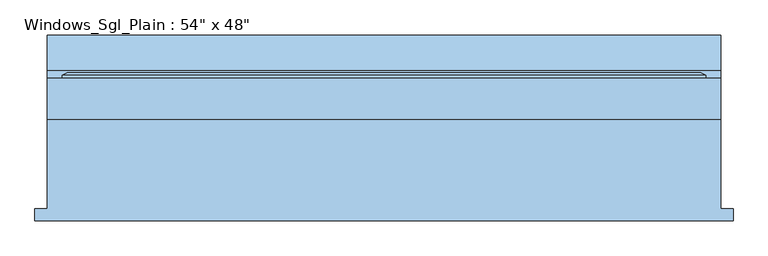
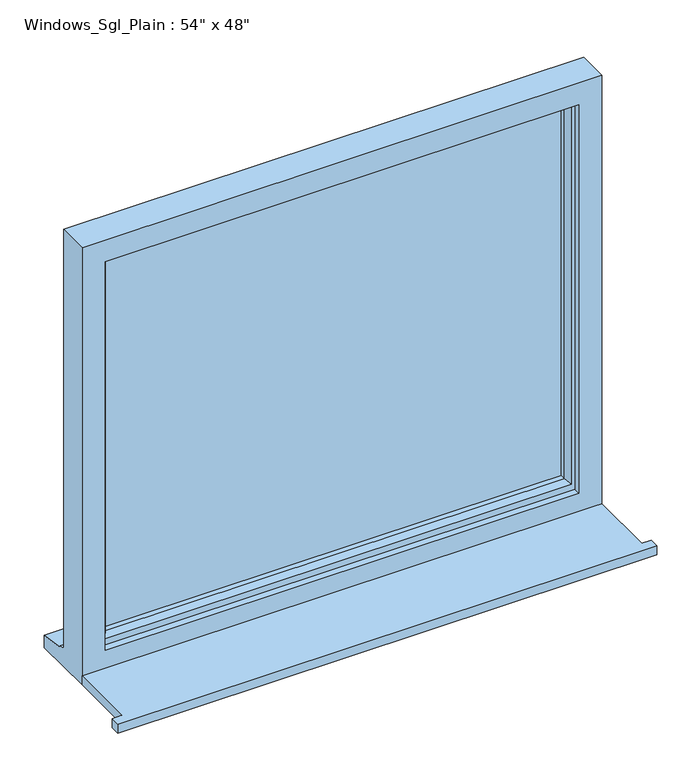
"""IFC4 building model written with IfcOpenShell, lengths in millimetres: window geometry."""

from ifc_helpers import new_model, si_unit, frame, origin, place, context, project, spatial, polyline, outline, extrude, faceted_brep, source, transform, mapped, element, save


def window_ab928ee3(model_context):
    return source(origin(), model_context, "Body", "SolidModel", [
        extrude(outline(polyline([(-705.0, -173.0434322), (-705.0, -148.0434322), (-680.0, -148.0434322), (-680.0, 31.9565678), (680.0, 31.9565678), (680.0, -148.0434322), (705.0, -148.0434322), (705.0, -173.0434322), (-705.0, -173.0434322)])), frame((0.0, 0.0, 900.0), z_axis=(0.0, 0.0, 1.0), x_axis=(1.0, 0.0, 0.0)), (0.0, 0.0, 1.0), 25.0),
        faceted_brep([(-680.0, 31.9565678, 900.0), (680.0, 31.9565678, 900.0), (680.0, 31.9565678, 2110.0), (-680.0, 31.9565678, 2110.0), (-620.0, 31.9565678, 2050.0), (620.0, 31.9565678, 2050.0), (620.0, 31.9565678, 975.0), (-620.0, 31.9565678, 975.0), (-680.0, 114.9565678, 2110.0), (-680.0, 114.9565678, 951.0), (-680.0, 129.9565678, 949.68767), (-680.0, 129.9565678, 944.7449676), (-680.0, 202.4565678, 933.8088847), (-680.0, 202.4565678, 900.0), (680.0, 114.9565678, 2110.0), (680.0, 114.9565678, 951.0), (-640.0, 114.9565678, 2070.0), (-640.0, 114.9565678, 963.0), (640.0, 114.9565678, 963.0), (640.0, 114.9565678, 2070.0), (-640.0, 49.9565678, 2070.0), (-640.0, 49.9565678, 963.0), (640.0, 49.9565678, 2070.0), (640.0, 49.9565678, 963.0), (-620.0, 49.9565678, 2050.0), (-620.0, 49.9565678, 975.0), (620.0, 49.9565678, 975.0), (620.0, 49.9565678, 2050.0), (680.0, 202.4565678, 900.0), (680.0, 202.4565678, 933.8088847), (680.0, 129.9565678, 944.7449676), (680.0, 129.9565678, 949.68767)], [[[0, 1, 2, 3], [4, 5, 6, 7]], [[0, 3, 8, 9, 10, 11, 12, 13]], [[9, 8, 14, 15], [16, 17, 18, 19]], [[17, 16, 20, 21]], [[20, 22, 23, 21], [24, 25, 26, 27]], [[24, 4, 7, 25]], [[3, 2, 14, 8]], [[16, 19, 22, 20]], [[5, 4, 24, 27]], [[15, 14, 2, 1, 28, 29, 30, 31]], [[19, 18, 23, 22]], [[5, 27, 26, 6]], [[28, 1, 0, 13]], [[29, 28, 13, 12]], [[30, 29, 12, 11]], [[31, 30, 11, 10]], [[15, 31, 10, 9]], [[21, 23, 18, 17]], [[7, 6, 26, 25]]]),
        extrude(outline(polyline([(610.0, 78.9565678), (-610.0, 78.9565678), (-610.0, 102.9565678), (610.0, 102.9565678), (610.0, 78.9565678)])), frame((0.0, 0.0, 993.0), z_axis=(0.0, 0.0, 1.0), x_axis=(1.0, 0.0, 0.0)), (0.0, 0.0, 1.0), 1047.0),
        faceted_brep([(-650.0, 114.9565678, 2080.0), (-650.0, 120.7300705, 2080.0), (-650.0, 120.7300705, 953.0), (-650.0, 114.9565678, 953.0), (-640.0, 49.9565678, 2070.0), (-640.0, 114.9565678, 2070.0), (-640.0, 114.9565678, 963.0), (-640.0, 49.9565678, 963.0), (-600.0, 64.4494677, 2030.0), (-610.1480377, 49.9565678, 2040.1480377), (-610.1480377, 49.9565678, 992.8519623), (-600.0, 64.4494677, 1003.0), (-600.0, 78.9565678, 2030.0), (-600.0, 78.9565678, 1003.0), (-610.0, 102.9565678, 2040.0), (-610.0, 78.9565678, 2040.0), (-610.0, 78.9565678, 993.0), (-610.0, 102.9565678, 993.0), (-600.0, 120.7300705, 2030.0), (-600.0, 102.9565678, 2030.0), (-600.0, 102.9565678, 1003.0), (-600.0, 120.7300705, 1003.0), (-617.4457548, 126.5035732, 2047.4457548), (-617.4457548, 126.5035732, 985.5542452), (-639.2153903, 126.5035732, 2069.2153903), (-639.2153903, 126.5035732, 963.7846097), (650.0, 120.7300705, 953.0), (650.0, 114.9565678, 953.0), (640.0, 114.9565678, 963.0), (640.0, 49.9565678, 963.0), (610.1480377, 49.9565678, 992.8519623), (600.0, 64.4494677, 1003.0), (600.0, 78.9565678, 1003.0), (610.0, 78.9565678, 993.0), (610.0, 102.9565678, 993.0), (600.0, 102.9565678, 1003.0), (600.0, 120.7300705, 1003.0), (617.4457548, 126.5035732, 985.5542452), (639.2153903, 126.5035732, 963.7846097), (650.0, 120.7300705, 2080.0), (650.0, 114.9565678, 2080.0), (640.0, 114.9565678, 2070.0), (640.0, 49.9565678, 2070.0), (610.1480377, 49.9565678, 2040.1480377), (600.0, 64.4494677, 2030.0), (600.0, 78.9565678, 2030.0), (610.0, 78.9565678, 2040.0), (610.0, 102.9565678, 2040.0), (600.0, 102.9565678, 2030.0), (600.0, 120.7300705, 2030.0), (617.4457548, 126.5035732, 2047.4457548), (639.2153903, 126.5035732, 2069.2153903)], [[[0, 1, 2, 3]], [[4, 5, 6, 7]], [[8, 9, 10, 11]], [[12, 8, 11, 13]], [[14, 15, 16, 17]], [[18, 19, 20, 21]], [[22, 18, 21, 23]], [[1, 24, 25, 2]], [[3, 2, 26, 27]], [[7, 6, 28, 29]], [[11, 10, 30, 31]], [[13, 11, 31, 32]], [[17, 16, 33, 34]], [[21, 20, 35, 36]], [[23, 21, 36, 37]], [[2, 25, 38, 26]], [[27, 26, 39, 40]], [[29, 28, 41, 42]], [[31, 30, 43, 44]], [[32, 31, 44, 45]], [[34, 33, 46, 47]], [[36, 35, 48, 49]], [[37, 36, 49, 50]], [[26, 38, 51, 39]], [[40, 39, 1, 0]], [[3, 27, 40, 0], [5, 41, 28, 6]], [[42, 41, 5, 4]], [[7, 29, 42, 4], [9, 43, 30, 10]], [[44, 43, 9, 8]], [[45, 44, 8, 12]], [[15, 46, 33, 16], [13, 32, 45, 12]], [[47, 46, 15, 14]], [[17, 34, 47, 14], [19, 48, 35, 20]], [[49, 48, 19, 18]], [[50, 49, 18, 22]], [[24, 51, 38, 25], [23, 37, 50, 22]], [[39, 51, 24, 1]]]),
    ])


if __name__ == "__main__":
    model = new_model("IFC4")
    model_context = context("Model", 3, world=origin())
    ifc_project = project(units=[si_unit("LENGTHUNIT", "METRE", prefix="MILLI")], contexts=[model_context])
    site = spatial("IfcSite", under=ifc_project)
    building = spatial("IfcBuilding", under=site)
    placement = place(None, origin())
    window_shape = window_ab928ee3(model_context)
    element("IfcWindow", 1, ObjectType="Windows_Sgl_Plain : 54\" x 48\"", at=placement, inside=building, context=model_context, shape_type="MappedRepresentation", body=[
        mapped(window_shape, transform((0.0, 0.0, 0.0), x_axis=(1.0, 0.0, 0.0), y_axis=(0.0, 1.0, 0.0), z_axis=(0.0, 0.0, 1.0))),
    ])
    save(model, "model.ifc")
